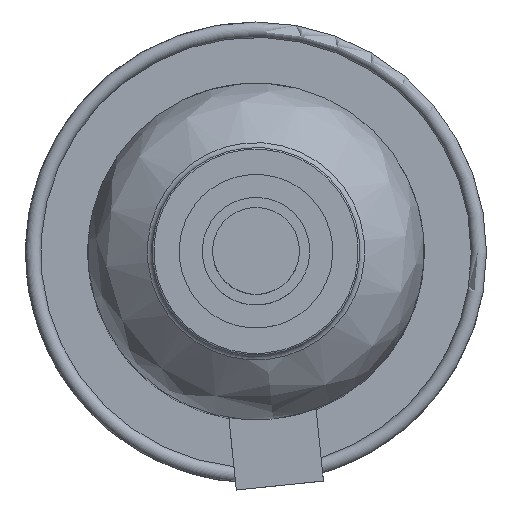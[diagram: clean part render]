
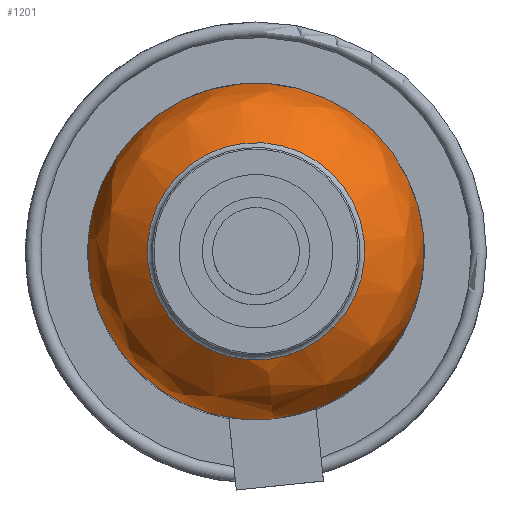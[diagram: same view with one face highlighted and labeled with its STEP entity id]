
A CAD part, top view. The second image highlights one B-rep face of the part: STEP entity #1201.
In plain terms, the highlighted free-form (B-spline) face has degree [2, 2] with [5, 9] control points.
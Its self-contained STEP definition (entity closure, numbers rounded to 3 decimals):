
#365=CARTESIAN_POINT('',(2.229,-21.786,118.));
#366=VERTEX_POINT('',#365);
#367=CARTESIAN_POINT('',(0.0,0.0,118.));
#368=DIRECTION('',(0.0,0.0,-1.0));
#369=DIRECTION('',(0.102,-0.995,0.0));
#370=AXIS2_PLACEMENT_3D('',#367,#368,#369);
#371=CIRCLE('',#370,21.9);
#372=EDGE_CURVE('',#366,#366,#371,.T.);
#1127=CARTESIAN_POINT('',(1.439,-14.073,129.224));
#1128=VERTEX_POINT('',#1127);
#1129=CARTESIAN_POINT('',(0.0,0.0,129.224));
#1130=DIRECTION('',(0.0,0.0,-1.0));
#1131=DIRECTION('',(0.102,-0.995,0.0));
#1132=AXIS2_PLACEMENT_3D('',#1129,#1130,#1131);
#1133=CIRCLE('',#1132,14.146);
#1134=EDGE_CURVE('',#1128,#1128,#1133,.T.);
#1142=CARTESIAN_POINT('',(0.,0.,124.782));
#1143=CARTESIAN_POINT('',(4.973,0.509,132.08));
#1144=CARTESIAN_POINT('',(13.38,1.369,129.463));
#1145=CARTESIAN_POINT('',(21.786,2.229,126.846));
#1146=CARTESIAN_POINT('',(21.786,2.229,118.));
#1147=CARTESIAN_POINT('',(0.,0.,124.782));
#1148=CARTESIAN_POINT('',(4.465,5.482,132.08));
#1149=CARTESIAN_POINT('',(12.011,14.748,129.463));
#1150=CARTESIAN_POINT('',(19.558,24.015,126.846));
#1151=CARTESIAN_POINT('',(19.558,24.015,118.));
#1152=CARTESIAN_POINT('',(0.,0.,124.782));
#1153=CARTESIAN_POINT('',(-0.509,4.973,132.08));
#1154=CARTESIAN_POINT('',(-1.369,13.38,129.463));
#1155=CARTESIAN_POINT('',(-2.229,21.786,126.846));
#1156=CARTESIAN_POINT('',(-2.229,21.786,118.));
#1157=CARTESIAN_POINT('',(0.,0.,124.782));
#1158=CARTESIAN_POINT('',(-5.482,4.465,132.08));
#1159=CARTESIAN_POINT('',(-14.748,12.011,129.463));
#1160=CARTESIAN_POINT('',(-24.015,19.558,126.846));
#1161=CARTESIAN_POINT('',(-24.015,19.558,118.));
#1162=CARTESIAN_POINT('',(0.,0.,124.782));
#1163=CARTESIAN_POINT('',(-4.973,-0.509,132.08));
#1164=CARTESIAN_POINT('',(-13.38,-1.369,129.463));
#1165=CARTESIAN_POINT('',(-21.786,-2.229,126.846));
#1166=CARTESIAN_POINT('',(-21.786,-2.229,118.));
#1167=CARTESIAN_POINT('',(0.,0.,124.782));
#1168=CARTESIAN_POINT('',(-4.465,-5.482,132.08));
#1169=CARTESIAN_POINT('',(-12.011,-14.748,129.463));
#1170=CARTESIAN_POINT('',(-19.558,-24.015,126.846));
#1171=CARTESIAN_POINT('',(-19.558,-24.015,118.));
#1172=CARTESIAN_POINT('',(0.,0.,124.782));
#1173=CARTESIAN_POINT('',(0.509,-4.973,132.08));
#1174=CARTESIAN_POINT('',(1.369,-13.38,129.463));
#1175=CARTESIAN_POINT('',(2.229,-21.786,126.846));
#1176=CARTESIAN_POINT('',(2.229,-21.786,118.));
#1177=CARTESIAN_POINT('',(0.,0.,124.782));
#1178=CARTESIAN_POINT('',(5.482,-4.465,132.08));
#1179=CARTESIAN_POINT('',(14.748,-12.011,129.463));
#1180=CARTESIAN_POINT('',(24.015,-19.558,126.846));
#1181=CARTESIAN_POINT('',(24.015,-19.558,118.));
#1182=CARTESIAN_POINT('',(0.,0.,124.782));
#1183=CARTESIAN_POINT('',(4.973,0.509,132.08));
#1184=CARTESIAN_POINT('',(13.38,1.369,129.463));
#1185=CARTESIAN_POINT('',(21.786,2.229,126.846));
#1186=CARTESIAN_POINT('',(21.786,2.229,118.));
#1194=(BOUNDED_SURFACE()B_SPLINE_SURFACE(2,2,((#1142,#1147,#1152,#1157,#1162,#1167,#1172,#1177,#1182),(#1143,#1148,#1153,#1158,#1163,#1168,#1173,#1178,#1183),(#1144,#1149,#1154,#1159,#1164,#1169,#1174,#1179,#1184),(#1145,#1150,#1155,#1160,#1165,#1170,#1175,#1180,#1185),(#1146,#1151,#1156,#1161,#1166,#1171,#1176,#1181,#1186)),.UNSPECIFIED.,.F.,.T.,.U.)B_SPLINE_SURFACE_WITH_KNOTS((3,2,3),(3,2,2,2,3),(-2.541,-1.27,0.0),(0.0,1.571,3.142,4.712,6.283),.UNSPECIFIED.)GEOMETRIC_REPRESENTATION_ITEM()RATIONAL_B_SPLINE_SURFACE(((1.0,0.707,1.0,0.707,1.0,0.707,1.0,0.707,1.0),(0.805,0.569,0.805,0.569,0.805,0.569,0.805,0.569,0.805),(1.0,0.707,1.0,0.707,1.0,0.707,1.0,0.707,1.0),(0.805,0.569,0.805,0.569,0.805,0.569,0.805,0.569,0.805),(1.0,0.707,1.0,0.707,1.0,0.707,1.0,0.707,1.0)))REPRESENTATION_ITEM('')SURFACE());
#1195=ORIENTED_EDGE('',*,*,#372,.F.);
#1196=EDGE_LOOP('',(#1195));
#1197=FACE_OUTER_BOUND('',#1196,.T.);
#1198=ORIENTED_EDGE('',*,*,#1134,.T.);
#1199=EDGE_LOOP('',(#1198));
#1200=FACE_BOUND('',#1199,.T.);
#1201=ADVANCED_FACE('',(#1197,#1200),#1194,.T.);
